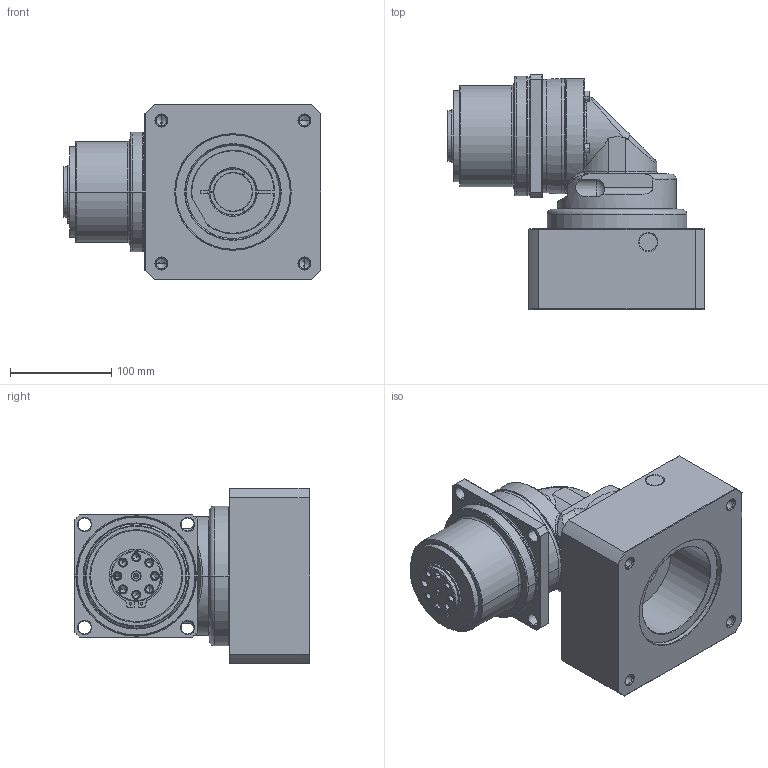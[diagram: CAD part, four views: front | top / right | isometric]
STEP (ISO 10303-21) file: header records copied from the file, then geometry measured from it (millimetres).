
FILE_DESCRIPTION((''),'2;1');
FILE_NAME('PLR120_1ST_38-P0411900101_ASM','2016-06-21T',('d00435'),(''),'PRO/ENGINEER BY PARAMETRIC TECHNOLOGY CORPORATION, 2008410','PRO/ENGINEER BY PARAMETRIC TECHNOLOGY CORPORATION, 2008410','');
FILE_SCHEMA(('CONFIG_CONTROL_DESIGN'));
Length unit declared in the file: millimetre
Products named in the file (10): P0272400001; P1353400001; P0366400001; 22802000029; P1017410001; P1350400501; P0411900101; P0503900010; P0713400501; PLR120_1ST_38-P0411900101_ASM
Assembly tree (9 placements, depth 2):
  PLR120_1ST_38-P0411900101_ASM
    P0272400001
    P1353400001
    P0366400001
    22802000029
    P1017410001
    P1350400501
    P0411900101
    P0503900010
    P0713400501
Bounding box: 255 x 232.5 x 174 mm (x, y, z)
Volume: 3840652 mm3; surface area: 439541.7 mm2
Topology: 10 solids, 27 shells, 572 faces, 1350 edges, 817 vertices
Faces by surface type: cylinder 199, cone 150, plane 119, torus 72, bspline 30, sphere 2
Entity records: 19541 total; most frequent: CARTESIAN_POINT 6236, DIRECTION 2932, ORIENTED_EDGE 2564, EDGE_CURVE 1316, AXIS2_PLACEMENT_3D 1242, VERTEX_POINT 817, CIRCLE 673, EDGE_LOOP 655
